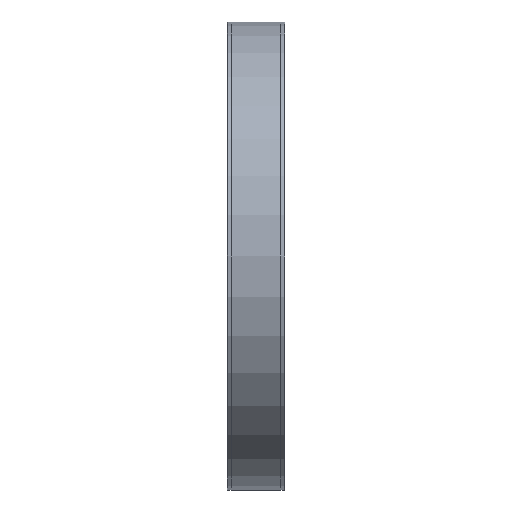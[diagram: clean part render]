
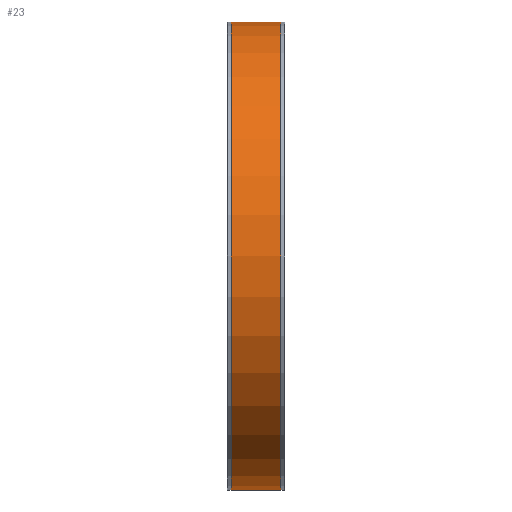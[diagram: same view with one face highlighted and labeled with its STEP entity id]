
A CAD part, left-side view. The second image highlights one B-rep face of the part: STEP entity #23.
In plain terms, the highlighted cylindrical face has radius 57 mm (diameter 114 mm), a partial arc.
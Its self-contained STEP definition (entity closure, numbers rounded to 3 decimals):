
#23 = ADVANCED_FACE ( 'NONE', ( #27149 ), #4093, .T. ) ;
#1210 = DIRECTION ( 'NONE',  ( 0., -1., 0. ) ) ;
#1320 = EDGE_CURVE ( 'NONE', #24256, #23611, #12318, .T. ) ;
#1602 = LINE ( 'NONE', #21969, #25521 ) ;
#1903 = DIRECTION ( 'NONE',  ( 0., 1., 0. ) ) ;
#4093 = CYLINDRICAL_SURFACE ( 'NONE', #15138, 57. ) ;
#6330 = DIRECTION ( 'NONE',  ( 0., 1., 0. ) ) ;
#8691 = EDGE_CURVE ( 'NONE', #19761, #10303, #20974, .T. ) ;
#9005 = CARTESIAN_POINT ( 'NONE',  ( 0., 13., -57. ) ) ;
#9486 = AXIS2_PLACEMENT_3D ( 'NONE', #14836, #1210, #10336 ) ;
#9971 = EDGE_CURVE ( 'NONE', #23611, #19761, #1602, .T. ) ;
#10303 = VERTEX_POINT ( 'NONE', #9005 ) ;
#10336 = DIRECTION ( 'NONE',  ( 0., 0., -1. ) ) ;
#10705 = DIRECTION ( 'NONE',  ( 0., 0., 1. ) ) ;
#11410 = DIRECTION ( 'NONE',  ( 0., 0., 1. ) ) ;
#11436 = ORIENTED_EDGE ( 'NONE', *, *, #22538, .F. ) ;
#11495 = EDGE_LOOP ( 'NONE', ( #11436, #26356, #28190, #23148 ) ) ;
#11820 = VECTOR ( 'NONE', #6330, 1000. ) ;
#12318 = CIRCLE ( 'NONE', #19978, 57. ) ;
#13237 = CARTESIAN_POINT ( 'NONE',  ( 0., -15., 0. ) ) ;
#14836 = CARTESIAN_POINT ( 'NONE',  ( 0., 13., 0. ) ) ;
#15138 = AXIS2_PLACEMENT_3D ( 'NONE', #13237, #28815, #10705 ) ;
#15868 = CARTESIAN_POINT ( 'NONE',  ( 0., 13., 57. ) ) ;
#17865 = LINE ( 'NONE', #26829, #11820 ) ;
#19761 = VERTEX_POINT ( 'NONE', #15868 ) ;
#19978 = AXIS2_PLACEMENT_3D ( 'NONE', #20685, #20991, #11410 ) ;
#20685 = CARTESIAN_POINT ( 'NONE',  ( 0., 1., 0. ) ) ;
#20974 = CIRCLE ( 'NONE', #9486, 57. ) ;
#20991 = DIRECTION ( 'NONE',  ( 0., 1., 0. ) ) ;
#21969 = CARTESIAN_POINT ( 'NONE',  ( 0., -15., 57. ) ) ;
#22538 = EDGE_CURVE ( 'NONE', #24256, #10303, #17865, .T. ) ;
#23148 = ORIENTED_EDGE ( 'NONE', *, *, #8691, .T. ) ;
#23611 = VERTEX_POINT ( 'NONE', #29137 ) ;
#24256 = VERTEX_POINT ( 'NONE', #24678 ) ;
#24678 = CARTESIAN_POINT ( 'NONE',  ( 0., 1., -57. ) ) ;
#25521 = VECTOR ( 'NONE', #1903, 1000. ) ;
#26356 = ORIENTED_EDGE ( 'NONE', *, *, #1320, .T. ) ;
#26829 = CARTESIAN_POINT ( 'NONE',  ( 0., -15., -57. ) ) ;
#27149 = FACE_OUTER_BOUND ( 'NONE', #11495, .T. ) ;
#28190 = ORIENTED_EDGE ( 'NONE', *, *, #9971, .T. ) ;
#28815 = DIRECTION ( 'NONE',  ( 0., 1., 0. ) ) ;
#29137 = CARTESIAN_POINT ( 'NONE',  ( 0., 1., 57. ) ) ;
